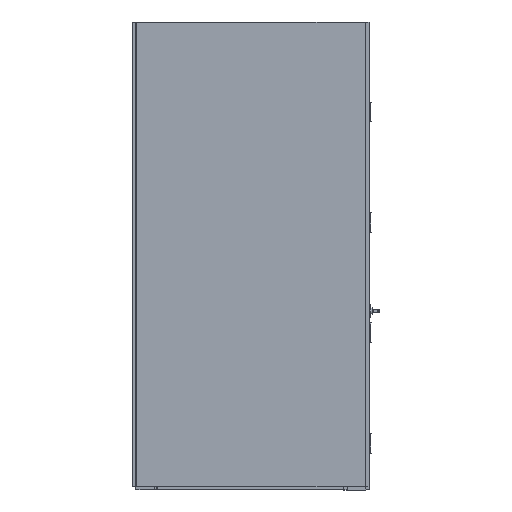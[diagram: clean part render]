
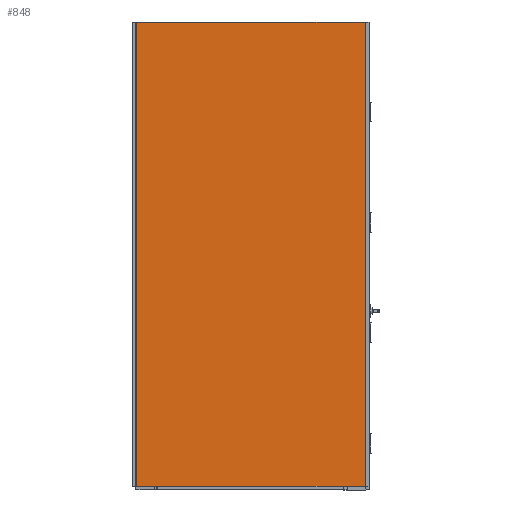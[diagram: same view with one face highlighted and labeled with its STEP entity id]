
A CAD part, left-side view. The second image highlights one B-rep face of the part: STEP entity #848.
In plain terms, the highlighted planar face has unit normal (-1, 0, 0).
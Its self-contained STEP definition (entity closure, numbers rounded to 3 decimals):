
#848=ADVANCED_FACE('',(#1341),#7083,.T.);
#1341=FACE_OUTER_BOUND('',#1838,.T.);
#1838=EDGE_LOOP('',(#3868,#3869,#3870,#3871));
#3868=ORIENTED_EDGE('',*,*,#4929,.T.);
#3869=ORIENTED_EDGE('',*,*,#4933,.T.);
#3870=ORIENTED_EDGE('',*,*,#4932,.F.);
#3871=ORIENTED_EDGE('',*,*,#4931,.F.);
#4929=EDGE_CURVE('',#6612,#6613,#5913,.T.);
#4931=EDGE_CURVE('',#6612,#6614,#5915,.T.);
#4932=EDGE_CURVE('',#6614,#6615,#5916,.T.);
#4933=EDGE_CURVE('',#6613,#6615,#5917,.T.);
#5913=B_SPLINE_CURVE_WITH_KNOTS('',1,(#12012,#12013),.UNSPECIFIED.,.F.,
 .F.,(2,2),(0.,2600.),.UNSPECIFIED.);
#5915=B_SPLINE_CURVE_WITH_KNOTS('',1,(#12016,#12017),.UNSPECIFIED.,.F.,
 .F.,(2,2),(608.,1204.),.UNSPECIFIED.);
#5916=B_SPLINE_CURVE_WITH_KNOTS('',1,(#12018,#12019),.UNSPECIFIED.,.F.,
 .F.,(2,2),(0.,2600.),.UNSPECIFIED.);
#5917=B_SPLINE_CURVE_WITH_KNOTS('',1,(#12020,#12021),.UNSPECIFIED.,.F.,
 .F.,(2,2),(608.,1204.),.UNSPECIFIED.);
#6612=VERTEX_POINT('',#11998);
#6613=VERTEX_POINT('',#11999);
#6614=VERTEX_POINT('',#12000);
#6615=VERTEX_POINT('',#12001);
#7083=PLANE('',#7991);
#7991=AXIS2_PLACEMENT_3D('',#11990,#8617,$);
#8617=DIRECTION('',(-1.,0.,0.));
#11990=CARTESIAN_POINT('',(-295.173,5271.579,18.));
#11998=CARTESIAN_POINT('',(-295.173,5271.579,18.));
#11999=CARTESIAN_POINT('',(-295.173,5271.579,2354.));
#12000=CARTESIAN_POINT('',(-295.173,6422.579,18.));
#12001=CARTESIAN_POINT('',(-295.173,6422.579,2354.));
#12012=CARTESIAN_POINT('',(-295.173,5271.579,18.));
#12013=CARTESIAN_POINT('',(-295.173,5271.579,2354.));
#12016=CARTESIAN_POINT('',(-295.173,5271.579,18.));
#12017=CARTESIAN_POINT('',(-295.173,6422.579,18.));
#12018=CARTESIAN_POINT('',(-295.173,6422.579,18.));
#12019=CARTESIAN_POINT('',(-295.173,6422.579,2354.));
#12020=CARTESIAN_POINT('',(-295.173,5271.579,2354.));
#12021=CARTESIAN_POINT('',(-295.173,6422.579,2354.));
